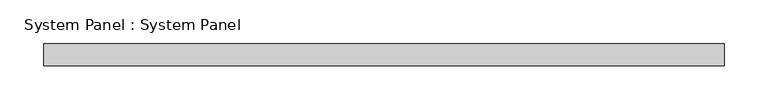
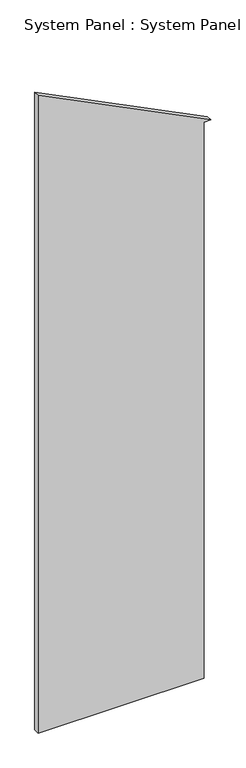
"""IFC4 building model written with IfcOpenShell, lengths in millimetres: plate geometry, System Panel : System Panel."""

from ifc_helpers import new_model, si_unit, frame, origin, place, context, project, spatial, polyline, outline, extrude, source, transform, mapped, element, save


def system_panel_system_panel_c20ba28e(model_context):
    return source(origin(), model_context, "Body", "SweptSolid", [
        extrude(outline(polyline([(0.0, 358.775), (2654.3, 358.775), (2654.3, 390.525), (3044.825, -390.525), (0.0, -390.525), (0.0, 358.775)])), frame((0.0, 19.05, 0.0), z_axis=(0.0, 1.0, 0.0), x_axis=(0.0, 0.0, 1.0)), (0.0, 0.0, 1.0), 25.4),
    ])


if __name__ == "__main__":
    model = new_model("IFC4")
    model_context = context("Model", 3, world=origin())
    ifc_project = project(units=[si_unit("LENGTHUNIT", "METRE", prefix="MILLI")], contexts=[model_context])
    site = spatial("IfcSite", under=ifc_project)
    building = spatial("IfcBuilding", under=site)
    placement = place(None, origin())
    system_panel_system_panel_shape = system_panel_system_panel_c20ba28e(model_context)
    element("IfcPlate", 1, ObjectType="System Panel : System Panel", at=placement, inside=building, context=model_context, shape_type="MappedRepresentation", body=[
        mapped(system_panel_system_panel_shape, transform((0.0, 0.0, 0.0), x_axis=(1.0, 0.0, 0.0), y_axis=(0.0, 1.0, 0.0), z_axis=(0.0, 0.0, 1.0))),
    ])
    save(model, "model.ifc")
